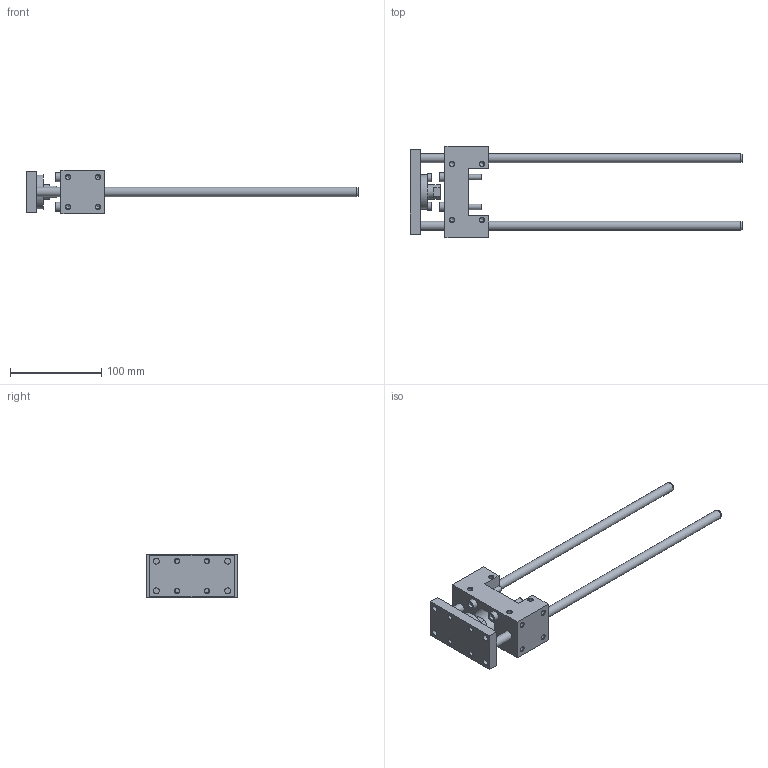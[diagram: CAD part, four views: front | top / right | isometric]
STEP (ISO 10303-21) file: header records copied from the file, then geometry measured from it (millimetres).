
FILE_DESCRIPTION( ( 'STEP AP214' ), '1' );
FILE_NAME( 'U:/Etudes/Top Solid/BIBLIO 3D AVM/TOP/PNEUMATIQUE/GUIDAGES/Type 34 (en U)/_Légère/3445130.step', '2005-05-27T12:20:21', ( ' ' ), ( ' ' ), 'XStep 1.0', ' ', ' ' );
FILE_SCHEMA( ( 'automotive_design' ) );
Length unit declared in the file: metre
Products named in the file (2): 1; 2
Bounding box: 363 x 100 x 48 mm (x, y, z)
Volume: 256982.6 mm3; surface area: 75628.2 mm2
Topology: 2 solids, 5 shells, 207 faces, 500 edges, 327 vertices
Faces by surface type: plane 90, cylinder 72, cone 45
Full cylindrical faces by diameter (mm): 4.134 x4, 4.918 x28, 5 x4, 5.5 x2, 6 x8, 6.5 x8, 8.5 x2, 8.647 x2, 10 x8, 16 x1, 18 x1, 22.8 x1, 25 x1, 30 x1, 38 x1
Entity records: 6811 total; most frequent: CARTESIAN_POINT 993, DIRECTION 882, ORIENTED_EDGE 628, EDGE_LOOP 376, AXIS2_PLACEMENT_3D 365, EDGE_CURVE 314, FACE_OUTER_BOUND 279, VERTEX_POINT 272
